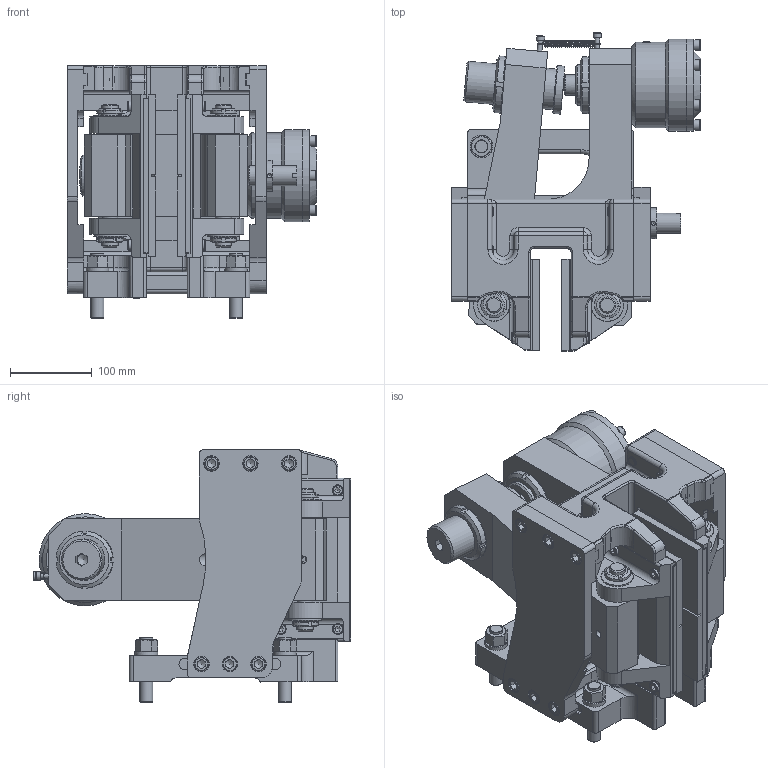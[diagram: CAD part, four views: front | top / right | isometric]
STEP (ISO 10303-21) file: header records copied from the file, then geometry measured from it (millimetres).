
FILE_DESCRIPTION(/* description */ ('','CAx-IF Rec.Pracs.---Representation and Presentation of Product Manufacturing Information (PMI)---4.0---2014-10-13'),/* implementation_level */ '2;1');
FILE_NAME(/* name */ 'X:\INVENTOR\DISEGNI\19_Pinze\STEP x Sito\OLEO-POSITIVE\19_26_070_04 POT070_25,4.stp',/* time_stamp */ '2018-10-26T08:35:48+02:00',/* author */ ('stefano'),/* organization */ (''),/* preprocessor_version */ 'ST-DEVELOPER v17',/* originating_system */ 'Autodesk Inventor 2018',/* authorisation */ '');
FILE_SCHEMA (('AP242_MANAGED_MODEL_BASED_3D_ENGINEERING_MIM_LF { 1 0 10303 442 1 1 4 }'));
Products named in the file (1): 19_26_070_04 POT070_25,4_Substitute_3
Bounding box: 306.1 x 390 x 310 mm (x, y, z)
Volume: 10273022.2 mm3; surface area: 953473.5 mm2
Topology: 1 solids, 1 shells, 1462 faces, 4016 edges, 2622 vertices
Faces by surface type: plane 769, cylinder 365, cone 174, torus 122, bspline 24, sphere 8
Full cylindrical faces by diameter (mm): 1.2 x2, 5.25 x4, 6 x2, 8 x9, 8.376 x1, 8.5 x8, 8.917 x1, 9.188 x1, 10 x2, 10.106 x4, 10.647 x2, 11.445 x1, 12 x15, 12.5 x12, 13 x22, 13.5 x8, 14 x1, 16 x8, 17 x4, 18 x14, 19 x12, 19.5 x1, 20 x12, 22 x6, 25 x5, 28 x1, 33.6 x1, 38 x1, 50 x3, 59 x1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
Entity records: 55169 total; most frequent: CARTESIAN_POINT 16785, ORIENTED_EDGE 7950, DIRECTION 7748, EDGE_CURVE 3975, AXIS2_PLACEMENT_3D 2931, VERTEX_POINT 2622, LINE 1886, VECTOR 1886
